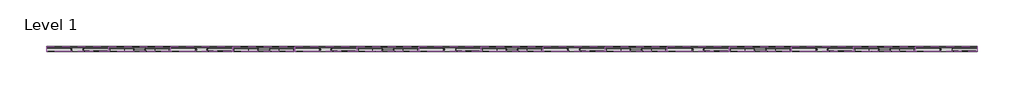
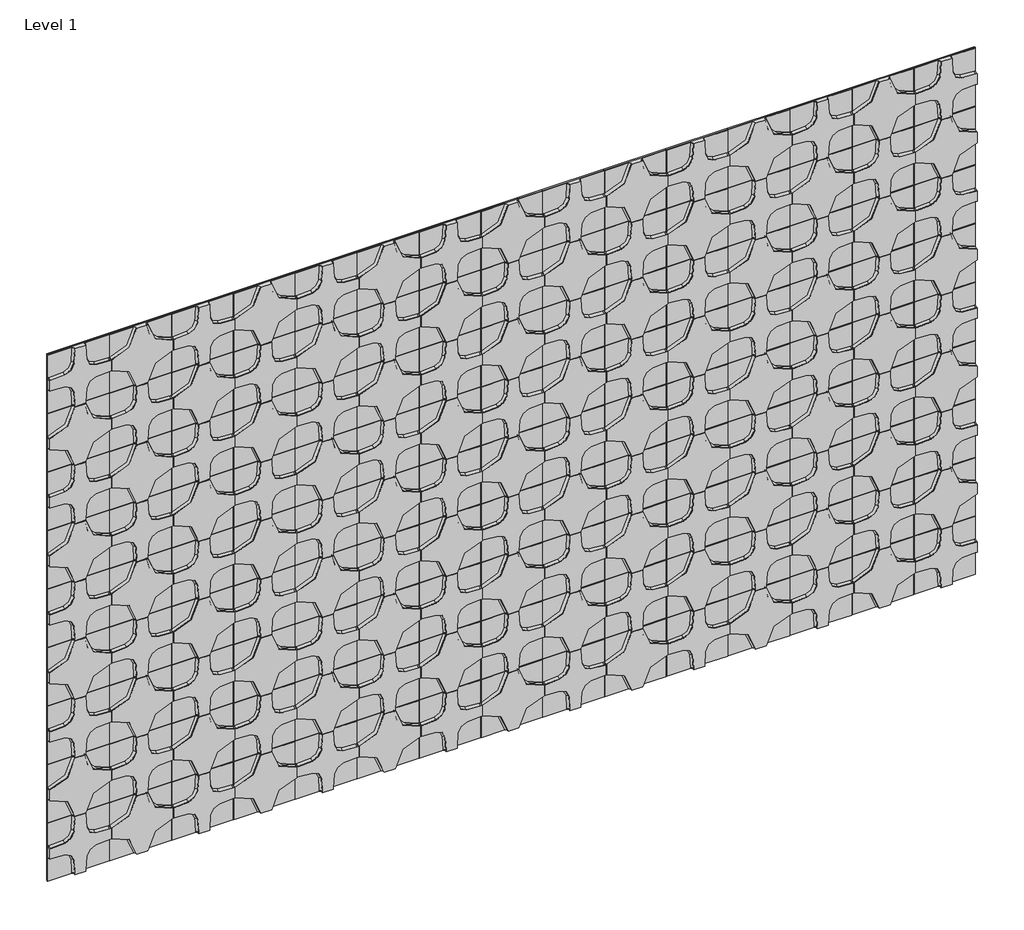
# One storey: 135 proxies.
"""IFC4 building model written with IfcOpenShell, lengths in millimetres."""

from ifc_helpers import new_model, si_unit, origin, place, context, project, spatial, transform, mapped, element, save
from components import specialty_equipment_d3eebbf5, specialty_equipment_d5421138

model = new_model("IFC4")

# Units and contexts
model_context = context("Model", 3, world=origin())
ifc_project = project(units=[si_unit("LENGTHUNIT", "METRE", prefix="MILLI")], contexts=[model_context])

# Site, building, storey
site = spatial("IfcSite", under=ifc_project)
building = spatial("IfcBuilding", under=site)
storey = spatial("IfcBuildingStorey", under=building, Name="Level 1", Elevation=0.0)

# Proxies
placement = place(None, origin())
specialty_equipment_shape = specialty_equipment_d3eebbf5(model_context)
element("IfcBuildingElementProxy", 1, Name="Spinneybeck_Quartile : Quartile 1", ObjectType="Spinneybeck_Quartile : Quartile 1", at=placement, inside=storey, context=model_context, shape_type="MappedRepresentation", body=[
    mapped(specialty_equipment_shape, transform((-8828.4606366, 2074.1714817, 152.4), x_axis=(1.0, 0.0, 0.0), y_axis=(0.0, 0.0, 1.0), z_axis=(0.0, -1.0, 0.0))),
])
element("IfcBuildingElementProxy", 2, Name="Spinneybeck_Quartile : Quartile 1", ObjectType="Spinneybeck_Quartile : Quartile 1", at=placement, inside=storey, context=model_context, shape_type="MappedRepresentation", body=[
    mapped(specialty_equipment_shape, transform((-8218.8606366, 2074.1714817, 152.4), x_axis=(1.0, 0.0, 0.0), y_axis=(0.0, 0.0, 1.0), z_axis=(0.0, -1.0, 0.0))),
])
element("IfcBuildingElementProxy", 3, Name="Spinneybeck_Quartile : Quartile 1", ObjectType="Spinneybeck_Quartile : Quartile 1", at=placement, inside=storey, context=model_context, shape_type="MappedRepresentation", body=[
    mapped(specialty_equipment_shape, transform((-7609.2606366, 2074.1714817, 152.4), x_axis=(1.0, 0.0, 0.0), y_axis=(0.0, 0.0, 1.0), z_axis=(0.0, -1.0, 0.0))),
])
element("IfcBuildingElementProxy", 4, Name="Spinneybeck_Quartile : Quartile 1", ObjectType="Spinneybeck_Quartile : Quartile 1", at=placement, inside=storey, context=model_context, shape_type="MappedRepresentation", body=[
    mapped(specialty_equipment_shape, transform((-6999.6606366, 2074.1714817, 152.4), x_axis=(1.0, 0.0, 0.0), y_axis=(0.0, 0.0, 1.0), z_axis=(0.0, -1.0, 0.0))),
])
element("IfcBuildingElementProxy", 5, Name="Spinneybeck_Quartile : Quartile 1", ObjectType="Spinneybeck_Quartile : Quartile 1", at=placement, inside=storey, context=model_context, shape_type="MappedRepresentation", body=[
    mapped(specialty_equipment_shape, transform((-6390.0606366, 2074.1714817, 152.4), x_axis=(1.0, 0.0, 0.0), y_axis=(0.0, 0.0, 1.0), z_axis=(0.0, -1.0, 0.0))),
])
element("IfcBuildingElementProxy", 6, Name="Spinneybeck_Quartile : Quartile 1", ObjectType="Spinneybeck_Quartile : Quartile 1", at=placement, inside=storey, context=model_context, shape_type="MappedRepresentation", body=[
    mapped(specialty_equipment_shape, transform((-5780.4606366, 2074.1714817, 152.4), x_axis=(1.0, 0.0, 0.0), y_axis=(0.0, 0.0, 1.0), z_axis=(0.0, -1.0, 0.0))),
])
element("IfcBuildingElementProxy", 7, Name="Spinneybeck_Quartile : Quartile 1", ObjectType="Spinneybeck_Quartile : Quartile 1", at=placement, inside=storey, context=model_context, shape_type="MappedRepresentation", body=[
    mapped(specialty_equipment_shape, transform((-5170.8606366, 2074.1714817, 152.4), x_axis=(1.0, 0.0, 0.0), y_axis=(0.0, 0.0, 1.0), z_axis=(0.0, -1.0, 0.0))),
])
element("IfcBuildingElementProxy", 8, Name="Spinneybeck_Quartile : Quartile 1", ObjectType="Spinneybeck_Quartile : Quartile 1", at=placement, inside=storey, context=model_context, shape_type="MappedRepresentation", body=[
    mapped(specialty_equipment_shape, transform((-9133.2606366, 2074.1714817, 457.2), x_axis=(1.0, 0.0, 0.0), y_axis=(0.0, 0.0, 1.0), z_axis=(0.0, -1.0, 0.0))),
])
element("IfcBuildingElementProxy", 9, Name="Spinneybeck_Quartile : Quartile 1", ObjectType="Spinneybeck_Quartile : Quartile 1", at=placement, inside=storey, context=model_context, shape_type="MappedRepresentation", body=[
    mapped(specialty_equipment_shape, transform((-8523.6606366, 2074.1714817, 457.2), x_axis=(1.0, 0.0, 0.0), y_axis=(0.0, 0.0, 1.0), z_axis=(0.0, -1.0, 0.0))),
])
element("IfcBuildingElementProxy", 10, Name="Spinneybeck_Quartile : Quartile 1", ObjectType="Spinneybeck_Quartile : Quartile 1", at=placement, inside=storey, context=model_context, shape_type="MappedRepresentation", body=[
    mapped(specialty_equipment_shape, transform((-7914.0606366, 2074.1714817, 457.2), x_axis=(1.0, 0.0, 0.0), y_axis=(0.0, 0.0, 1.0), z_axis=(0.0, -1.0, 0.0))),
])
element("IfcBuildingElementProxy", 11, Name="Spinneybeck_Quartile : Quartile 1", ObjectType="Spinneybeck_Quartile : Quartile 1", at=placement, inside=storey, context=model_context, shape_type="MappedRepresentation", body=[
    mapped(specialty_equipment_shape, transform((-7304.4606366, 2074.1714817, 457.2), x_axis=(1.0, 0.0, 0.0), y_axis=(0.0, 0.0, 1.0), z_axis=(0.0, -1.0, 0.0))),
])
element("IfcBuildingElementProxy", 12, Name="Spinneybeck_Quartile : Quartile 1", ObjectType="Spinneybeck_Quartile : Quartile 1", at=placement, inside=storey, context=model_context, shape_type="MappedRepresentation", body=[
    mapped(specialty_equipment_shape, transform((-6694.8606366, 2074.1714817, 457.2), x_axis=(1.0, 0.0, 0.0), y_axis=(0.0, 0.0, 1.0), z_axis=(0.0, -1.0, 0.0))),
])
element("IfcBuildingElementProxy", 13, Name="Spinneybeck_Quartile : Quartile 1", ObjectType="Spinneybeck_Quartile : Quartile 1", at=placement, inside=storey, context=model_context, shape_type="MappedRepresentation", body=[
    mapped(specialty_equipment_shape, transform((-6085.2606366, 2074.1714817, 457.2), x_axis=(1.0, 0.0, 0.0), y_axis=(0.0, 0.0, 1.0), z_axis=(0.0, -1.0, 0.0))),
])
element("IfcBuildingElementProxy", 14, Name="Spinneybeck_Quartile : Quartile 1", ObjectType="Spinneybeck_Quartile : Quartile 1", at=placement, inside=storey, context=model_context, shape_type="MappedRepresentation", body=[
    mapped(specialty_equipment_shape, transform((-5475.6606366, 2074.1714817, 457.2), x_axis=(1.0, 0.0, 0.0), y_axis=(0.0, 0.0, 1.0), z_axis=(0.0, -1.0, 0.0))),
])
element("IfcBuildingElementProxy", 15, Name="Spinneybeck_Quartile : Quartile 1", ObjectType="Spinneybeck_Quartile : Quartile 1", at=placement, inside=storey, context=model_context, shape_type="MappedRepresentation", body=[
    mapped(specialty_equipment_shape, transform((-4866.0606366, 2074.1714817, 457.2), x_axis=(1.0, 0.0, 0.0), y_axis=(0.0, 0.0, 1.0), z_axis=(0.0, -1.0, 0.0))),
])
element("IfcBuildingElementProxy", 16, Name="Spinneybeck_Quartile : Quartile 1", ObjectType="Spinneybeck_Quartile : Quartile 1", at=placement, inside=storey, context=model_context, shape_type="MappedRepresentation", body=[
    mapped(specialty_equipment_shape, transform((-8828.4606366, 2074.1714817, 762.0), x_axis=(1.0, 0.0, 0.0), y_axis=(0.0, 0.0, 1.0), z_axis=(0.0, -1.0, 0.0))),
])
element("IfcBuildingElementProxy", 17, Name="Spinneybeck_Quartile : Quartile 1", ObjectType="Spinneybeck_Quartile : Quartile 1", at=placement, inside=storey, context=model_context, shape_type="MappedRepresentation", body=[
    mapped(specialty_equipment_shape, transform((-8218.8606366, 2074.1714817, 762.0), x_axis=(1.0, 0.0, 0.0), y_axis=(0.0, 0.0, 1.0), z_axis=(0.0, -1.0, 0.0))),
])
element("IfcBuildingElementProxy", 18, Name="Spinneybeck_Quartile : Quartile 1", ObjectType="Spinneybeck_Quartile : Quartile 1", at=placement, inside=storey, context=model_context, shape_type="MappedRepresentation", body=[
    mapped(specialty_equipment_shape, transform((-7609.2606366, 2074.1714817, 762.0), x_axis=(1.0, 0.0, 0.0), y_axis=(0.0, 0.0, 1.0), z_axis=(0.0, -1.0, 0.0))),
])
element("IfcBuildingElementProxy", 19, Name="Spinneybeck_Quartile : Quartile 1", ObjectType="Spinneybeck_Quartile : Quartile 1", at=placement, inside=storey, context=model_context, shape_type="MappedRepresentation", body=[
    mapped(specialty_equipment_shape, transform((-6999.6606366, 2074.1714817, 762.0), x_axis=(1.0, 0.0, 0.0), y_axis=(0.0, 0.0, 1.0), z_axis=(0.0, -1.0, 0.0))),
])
element("IfcBuildingElementProxy", 20, Name="Spinneybeck_Quartile : Quartile 1", ObjectType="Spinneybeck_Quartile : Quartile 1", at=placement, inside=storey, context=model_context, shape_type="MappedRepresentation", body=[
    mapped(specialty_equipment_shape, transform((-6390.0606366, 2074.1714817, 762.0), x_axis=(1.0, 0.0, 0.0), y_axis=(0.0, 0.0, 1.0), z_axis=(0.0, -1.0, 0.0))),
])
element("IfcBuildingElementProxy", 21, Name="Spinneybeck_Quartile : Quartile 1", ObjectType="Spinneybeck_Quartile : Quartile 1", at=placement, inside=storey, context=model_context, shape_type="MappedRepresentation", body=[
    mapped(specialty_equipment_shape, transform((-5780.4606366, 2074.1714817, 762.0), x_axis=(1.0, 0.0, 0.0), y_axis=(0.0, 0.0, 1.0), z_axis=(0.0, -1.0, 0.0))),
])
element("IfcBuildingElementProxy", 22, Name="Spinneybeck_Quartile : Quartile 1", ObjectType="Spinneybeck_Quartile : Quartile 1", at=placement, inside=storey, context=model_context, shape_type="MappedRepresentation", body=[
    mapped(specialty_equipment_shape, transform((-5170.8606366, 2074.1714817, 762.0), x_axis=(1.0, 0.0, 0.0), y_axis=(0.0, 0.0, 1.0), z_axis=(0.0, -1.0, 0.0))),
])
element("IfcBuildingElementProxy", 23, Name="Spinneybeck_Quartile : Quartile 1", ObjectType="Spinneybeck_Quartile : Quartile 1", at=placement, inside=storey, context=model_context, shape_type="MappedRepresentation", body=[
    mapped(specialty_equipment_shape, transform((-9133.2606366, 2074.1714817, 1066.8), x_axis=(1.0, 0.0, 0.0), y_axis=(0.0, 0.0, 1.0), z_axis=(0.0, -1.0, 0.0))),
])
element("IfcBuildingElementProxy", 24, Name="Spinneybeck_Quartile : Quartile 1", ObjectType="Spinneybeck_Quartile : Quartile 1", at=placement, inside=storey, context=model_context, shape_type="MappedRepresentation", body=[
    mapped(specialty_equipment_shape, transform((-8523.6606366, 2074.1714817, 1066.8), x_axis=(1.0, 0.0, 0.0), y_axis=(0.0, 0.0, 1.0), z_axis=(0.0, -1.0, 0.0))),
])
element("IfcBuildingElementProxy", 25, Name="Spinneybeck_Quartile : Quartile 1", ObjectType="Spinneybeck_Quartile : Quartile 1", at=placement, inside=storey, context=model_context, shape_type="MappedRepresentation", body=[
    mapped(specialty_equipment_shape, transform((-7914.0606366, 2074.1714817, 1066.8), x_axis=(1.0, 0.0, 0.0), y_axis=(0.0, 0.0, 1.0), z_axis=(0.0, -1.0, 0.0))),
])
element("IfcBuildingElementProxy", 26, Name="Spinneybeck_Quartile : Quartile 1", ObjectType="Spinneybeck_Quartile : Quartile 1", at=placement, inside=storey, context=model_context, shape_type="MappedRepresentation", body=[
    mapped(specialty_equipment_shape, transform((-7304.4606366, 2074.1714817, 1066.8), x_axis=(1.0, 0.0, 0.0), y_axis=(0.0, 0.0, 1.0), z_axis=(0.0, -1.0, 0.0))),
])
element("IfcBuildingElementProxy", 27, Name="Spinneybeck_Quartile : Quartile 1", ObjectType="Spinneybeck_Quartile : Quartile 1", at=placement, inside=storey, context=model_context, shape_type="MappedRepresentation", body=[
    mapped(specialty_equipment_shape, transform((-6694.8606366, 2074.1714817, 1066.8), x_axis=(1.0, 0.0, 0.0), y_axis=(0.0, 0.0, 1.0), z_axis=(0.0, -1.0, 0.0))),
])
element("IfcBuildingElementProxy", 28, Name="Spinneybeck_Quartile : Quartile 1", ObjectType="Spinneybeck_Quartile : Quartile 1", at=placement, inside=storey, context=model_context, shape_type="MappedRepresentation", body=[
    mapped(specialty_equipment_shape, transform((-6085.2606366, 2074.1714817, 1066.8), x_axis=(1.0, 0.0, 0.0), y_axis=(0.0, 0.0, 1.0), z_axis=(0.0, -1.0, 0.0))),
])
element("IfcBuildingElementProxy", 29, Name="Spinneybeck_Quartile : Quartile 1", ObjectType="Spinneybeck_Quartile : Quartile 1", at=placement, inside=storey, context=model_context, shape_type="MappedRepresentation", body=[
    mapped(specialty_equipment_shape, transform((-5475.6606366, 2074.1714817, 1066.8), x_axis=(1.0, 0.0, 0.0), y_axis=(0.0, 0.0, 1.0), z_axis=(0.0, -1.0, 0.0))),
])
element("IfcBuildingElementProxy", 30, Name="Spinneybeck_Quartile : Quartile 1", ObjectType="Spinneybeck_Quartile : Quartile 1", at=placement, inside=storey, context=model_context, shape_type="MappedRepresentation", body=[
    mapped(specialty_equipment_shape, transform((-4866.0606366, 2074.1714817, 1066.8), x_axis=(1.0, 0.0, 0.0), y_axis=(0.0, 0.0, 1.0), z_axis=(0.0, -1.0, 0.0))),
])
element("IfcBuildingElementProxy", 31, Name="Spinneybeck_Quartile : Quartile 1", ObjectType="Spinneybeck_Quartile : Quartile 1", at=placement, inside=storey, context=model_context, shape_type="MappedRepresentation", body=[
    mapped(specialty_equipment_shape, transform((-8828.4606366, 2074.1714817, 1371.6), x_axis=(1.0, 0.0, 0.0), y_axis=(0.0, 0.0, 1.0), z_axis=(0.0, -1.0, 0.0))),
])
element("IfcBuildingElementProxy", 32, Name="Spinneybeck_Quartile : Quartile 1", ObjectType="Spinneybeck_Quartile : Quartile 1", at=placement, inside=storey, context=model_context, shape_type="MappedRepresentation", body=[
    mapped(specialty_equipment_shape, transform((-8218.8606366, 2074.1714817, 1371.6), x_axis=(1.0, 0.0, 0.0), y_axis=(0.0, 0.0, 1.0), z_axis=(0.0, -1.0, 0.0))),
])
element("IfcBuildingElementProxy", 33, Name="Spinneybeck_Quartile : Quartile 1", ObjectType="Spinneybeck_Quartile : Quartile 1", at=placement, inside=storey, context=model_context, shape_type="MappedRepresentation", body=[
    mapped(specialty_equipment_shape, transform((-7609.2606366, 2074.1714817, 1371.6), x_axis=(1.0, 0.0, 0.0), y_axis=(0.0, 0.0, 1.0), z_axis=(0.0, -1.0, 0.0))),
])
element("IfcBuildingElementProxy", 34, Name="Spinneybeck_Quartile : Quartile 1", ObjectType="Spinneybeck_Quartile : Quartile 1", at=placement, inside=storey, context=model_context, shape_type="MappedRepresentation", body=[
    mapped(specialty_equipment_shape, transform((-6999.6606366, 2074.1714817, 1371.6), x_axis=(1.0, 0.0, 0.0), y_axis=(0.0, 0.0, 1.0), z_axis=(0.0, -1.0, 0.0))),
])
element("IfcBuildingElementProxy", 35, Name="Spinneybeck_Quartile : Quartile 1", ObjectType="Spinneybeck_Quartile : Quartile 1", at=placement, inside=storey, context=model_context, shape_type="MappedRepresentation", body=[
    mapped(specialty_equipment_shape, transform((-6390.0606366, 2074.1714817, 1371.6), x_axis=(1.0, 0.0, 0.0), y_axis=(0.0, 0.0, 1.0), z_axis=(0.0, -1.0, 0.0))),
])
element("IfcBuildingElementProxy", 36, Name="Spinneybeck_Quartile : Quartile 1", ObjectType="Spinneybeck_Quartile : Quartile 1", at=placement, inside=storey, context=model_context, shape_type="MappedRepresentation", body=[
    mapped(specialty_equipment_shape, transform((-5780.4606366, 2074.1714817, 1371.6), x_axis=(1.0, 0.0, 0.0), y_axis=(0.0, 0.0, 1.0), z_axis=(0.0, -1.0, 0.0))),
])
element("IfcBuildingElementProxy", 37, Name="Spinneybeck_Quartile : Quartile 1", ObjectType="Spinneybeck_Quartile : Quartile 1", at=placement, inside=storey, context=model_context, shape_type="MappedRepresentation", body=[
    mapped(specialty_equipment_shape, transform((-5170.8606366, 2074.1714817, 1371.6), x_axis=(1.0, 0.0, 0.0), y_axis=(0.0, 0.0, 1.0), z_axis=(0.0, -1.0, 0.0))),
])
element("IfcBuildingElementProxy", 38, Name="Spinneybeck_Quartile : Quartile 1", ObjectType="Spinneybeck_Quartile : Quartile 1", at=placement, inside=storey, context=model_context, shape_type="MappedRepresentation", body=[
    mapped(specialty_equipment_shape, transform((-9133.2606366, 2074.1714817, 1676.4), x_axis=(1.0, 0.0, 0.0), y_axis=(0.0, 0.0, 1.0), z_axis=(0.0, -1.0, 0.0))),
])
element("IfcBuildingElementProxy", 39, Name="Spinneybeck_Quartile : Quartile 1", ObjectType="Spinneybeck_Quartile : Quartile 1", at=placement, inside=storey, context=model_context, shape_type="MappedRepresentation", body=[
    mapped(specialty_equipment_shape, transform((-8523.6606366, 2074.1714817, 1676.4), x_axis=(1.0, 0.0, 0.0), y_axis=(0.0, 0.0, 1.0), z_axis=(0.0, -1.0, 0.0))),
])
element("IfcBuildingElementProxy", 40, Name="Spinneybeck_Quartile : Quartile 1", ObjectType="Spinneybeck_Quartile : Quartile 1", at=placement, inside=storey, context=model_context, shape_type="MappedRepresentation", body=[
    mapped(specialty_equipment_shape, transform((-7914.0606366, 2074.1714817, 1676.4), x_axis=(1.0, 0.0, 0.0), y_axis=(0.0, 0.0, 1.0), z_axis=(0.0, -1.0, 0.0))),
])
element("IfcBuildingElementProxy", 41, Name="Spinneybeck_Quartile : Quartile 1", ObjectType="Spinneybeck_Quartile : Quartile 1", at=placement, inside=storey, context=model_context, shape_type="MappedRepresentation", body=[
    mapped(specialty_equipment_shape, transform((-7304.4606366, 2074.1714817, 1676.4), x_axis=(1.0, 0.0, 0.0), y_axis=(0.0, 0.0, 1.0), z_axis=(0.0, -1.0, 0.0))),
])
element("IfcBuildingElementProxy", 42, Name="Spinneybeck_Quartile : Quartile 1", ObjectType="Spinneybeck_Quartile : Quartile 1", at=placement, inside=storey, context=model_context, shape_type="MappedRepresentation", body=[
    mapped(specialty_equipment_shape, transform((-6694.8606366, 2074.1714817, 1676.4), x_axis=(1.0, 0.0, 0.0), y_axis=(0.0, 0.0, 1.0), z_axis=(0.0, -1.0, 0.0))),
])
element("IfcBuildingElementProxy", 43, Name="Spinneybeck_Quartile : Quartile 1", ObjectType="Spinneybeck_Quartile : Quartile 1", at=placement, inside=storey, context=model_context, shape_type="MappedRepresentation", body=[
    mapped(specialty_equipment_shape, transform((-6085.2606366, 2074.1714817, 1676.4), x_axis=(1.0, 0.0, 0.0), y_axis=(0.0, 0.0, 1.0), z_axis=(0.0, -1.0, 0.0))),
])
element("IfcBuildingElementProxy", 44, Name="Spinneybeck_Quartile : Quartile 1", ObjectType="Spinneybeck_Quartile : Quartile 1", at=placement, inside=storey, context=model_context, shape_type="MappedRepresentation", body=[
    mapped(specialty_equipment_shape, transform((-5475.6606366, 2074.1714817, 1676.4), x_axis=(1.0, 0.0, 0.0), y_axis=(0.0, 0.0, 1.0), z_axis=(0.0, -1.0, 0.0))),
])
element("IfcBuildingElementProxy", 45, Name="Spinneybeck_Quartile : Quartile 1", ObjectType="Spinneybeck_Quartile : Quartile 1", at=placement, inside=storey, context=model_context, shape_type="MappedRepresentation", body=[
    mapped(specialty_equipment_shape, transform((-4866.0606366, 2074.1714817, 1676.4), x_axis=(1.0, 0.0, 0.0), y_axis=(0.0, 0.0, 1.0), z_axis=(0.0, -1.0, 0.0))),
])
element("IfcBuildingElementProxy", 46, Name="Spinneybeck_Quartile : Quartile 1", ObjectType="Spinneybeck_Quartile : Quartile 1", at=placement, inside=storey, context=model_context, shape_type="MappedRepresentation", body=[
    mapped(specialty_equipment_shape, transform((-8828.4606366, 2074.1714817, 1981.2), x_axis=(1.0, 0.0, 0.0), y_axis=(0.0, 0.0, 1.0), z_axis=(0.0, -1.0, 0.0))),
])
element("IfcBuildingElementProxy", 47, Name="Spinneybeck_Quartile : Quartile 1", ObjectType="Spinneybeck_Quartile : Quartile 1", at=placement, inside=storey, context=model_context, shape_type="MappedRepresentation", body=[
    mapped(specialty_equipment_shape, transform((-8218.8606366, 2074.1714817, 1981.2), x_axis=(1.0, 0.0, 0.0), y_axis=(0.0, 0.0, 1.0), z_axis=(0.0, -1.0, 0.0))),
])
element("IfcBuildingElementProxy", 48, Name="Spinneybeck_Quartile : Quartile 1", ObjectType="Spinneybeck_Quartile : Quartile 1", at=placement, inside=storey, context=model_context, shape_type="MappedRepresentation", body=[
    mapped(specialty_equipment_shape, transform((-7609.2606366, 2074.1714817, 1981.2), x_axis=(1.0, 0.0, 0.0), y_axis=(0.0, 0.0, 1.0), z_axis=(0.0, -1.0, 0.0))),
])
element("IfcBuildingElementProxy", 49, Name="Spinneybeck_Quartile : Quartile 1", ObjectType="Spinneybeck_Quartile : Quartile 1", at=placement, inside=storey, context=model_context, shape_type="MappedRepresentation", body=[
    mapped(specialty_equipment_shape, transform((-6999.6606366, 2074.1714817, 1981.2), x_axis=(1.0, 0.0, 0.0), y_axis=(0.0, 0.0, 1.0), z_axis=(0.0, -1.0, 0.0))),
])
element("IfcBuildingElementProxy", 50, Name="Spinneybeck_Quartile : Quartile 1", ObjectType="Spinneybeck_Quartile : Quartile 1", at=placement, inside=storey, context=model_context, shape_type="MappedRepresentation", body=[
    mapped(specialty_equipment_shape, transform((-6390.0606366, 2074.1714817, 1981.2), x_axis=(1.0, 0.0, 0.0), y_axis=(0.0, 0.0, 1.0), z_axis=(0.0, -1.0, 0.0))),
])
element("IfcBuildingElementProxy", 51, Name="Spinneybeck_Quartile : Quartile 1", ObjectType="Spinneybeck_Quartile : Quartile 1", at=placement, inside=storey, context=model_context, shape_type="MappedRepresentation", body=[
    mapped(specialty_equipment_shape, transform((-5780.4606366, 2074.1714817, 1981.2), x_axis=(1.0, 0.0, 0.0), y_axis=(0.0, 0.0, 1.0), z_axis=(0.0, -1.0, 0.0))),
])
element("IfcBuildingElementProxy", 52, Name="Spinneybeck_Quartile : Quartile 1", ObjectType="Spinneybeck_Quartile : Quartile 1", at=placement, inside=storey, context=model_context, shape_type="MappedRepresentation", body=[
    mapped(specialty_equipment_shape, transform((-5170.8606366, 2074.1714817, 1981.2), x_axis=(1.0, 0.0, 0.0), y_axis=(0.0, 0.0, 1.0), z_axis=(0.0, -1.0, 0.0))),
])
element("IfcBuildingElementProxy", 53, Name="Spinneybeck_Quartile : Quartile 1", ObjectType="Spinneybeck_Quartile : Quartile 1", at=placement, inside=storey, context=model_context, shape_type="MappedRepresentation", body=[
    mapped(specialty_equipment_shape, transform((-9133.2606366, 2074.1714817, 2286.0), x_axis=(1.0, 0.0, 0.0), y_axis=(0.0, 0.0, 1.0), z_axis=(0.0, -1.0, 0.0))),
])
element("IfcBuildingElementProxy", 54, Name="Spinneybeck_Quartile : Quartile 1", ObjectType="Spinneybeck_Quartile : Quartile 1", at=placement, inside=storey, context=model_context, shape_type="MappedRepresentation", body=[
    mapped(specialty_equipment_shape, transform((-8523.6606366, 2074.1714817, 2286.0), x_axis=(1.0, 0.0, 0.0), y_axis=(0.0, 0.0, 1.0), z_axis=(0.0, -1.0, 0.0))),
])
element("IfcBuildingElementProxy", 55, Name="Spinneybeck_Quartile : Quartile 1", ObjectType="Spinneybeck_Quartile : Quartile 1", at=placement, inside=storey, context=model_context, shape_type="MappedRepresentation", body=[
    mapped(specialty_equipment_shape, transform((-7914.0606366, 2074.1714817, 2286.0), x_axis=(1.0, 0.0, 0.0), y_axis=(0.0, 0.0, 1.0), z_axis=(0.0, -1.0, 0.0))),
])
element("IfcBuildingElementProxy", 56, Name="Spinneybeck_Quartile : Quartile 1", ObjectType="Spinneybeck_Quartile : Quartile 1", at=placement, inside=storey, context=model_context, shape_type="MappedRepresentation", body=[
    mapped(specialty_equipment_shape, transform((-7304.4606366, 2074.1714817, 2286.0), x_axis=(1.0, 0.0, 0.0), y_axis=(0.0, 0.0, 1.0), z_axis=(0.0, -1.0, 0.0))),
])
element("IfcBuildingElementProxy", 57, Name="Spinneybeck_Quartile : Quartile 1", ObjectType="Spinneybeck_Quartile : Quartile 1", at=placement, inside=storey, context=model_context, shape_type="MappedRepresentation", body=[
    mapped(specialty_equipment_shape, transform((-6694.8606366, 2074.1714817, 2286.0), x_axis=(1.0, 0.0, 0.0), y_axis=(0.0, 0.0, 1.0), z_axis=(0.0, -1.0, 0.0))),
])
element("IfcBuildingElementProxy", 58, Name="Spinneybeck_Quartile : Quartile 1", ObjectType="Spinneybeck_Quartile : Quartile 1", at=placement, inside=storey, context=model_context, shape_type="MappedRepresentation", body=[
    mapped(specialty_equipment_shape, transform((-6085.2606366, 2074.1714817, 2286.0), x_axis=(1.0, 0.0, 0.0), y_axis=(0.0, 0.0, 1.0), z_axis=(0.0, -1.0, 0.0))),
])
element("IfcBuildingElementProxy", 59, Name="Spinneybeck_Quartile : Quartile 1", ObjectType="Spinneybeck_Quartile : Quartile 1", at=placement, inside=storey, context=model_context, shape_type="MappedRepresentation", body=[
    mapped(specialty_equipment_shape, transform((-5475.6606366, 2074.1714817, 2286.0), x_axis=(1.0, 0.0, 0.0), y_axis=(0.0, 0.0, 1.0), z_axis=(0.0, -1.0, 0.0))),
])
element("IfcBuildingElementProxy", 60, Name="Spinneybeck_Quartile : Quartile 1", ObjectType="Spinneybeck_Quartile : Quartile 1", at=placement, inside=storey, context=model_context, shape_type="MappedRepresentation", body=[
    mapped(specialty_equipment_shape, transform((-4866.0606366, 2074.1714817, 2286.0), x_axis=(1.0, 0.0, 0.0), y_axis=(0.0, 0.0, 1.0), z_axis=(0.0, -1.0, 0.0))),
])
element("IfcBuildingElementProxy", 61, Name="Spinneybeck_Quartile : Quartile 1", ObjectType="Spinneybeck_Quartile : Quartile 1", at=placement, inside=storey, context=model_context, shape_type="MappedRepresentation", body=[
    mapped(specialty_equipment_shape, transform((-8828.4606366, 2074.1714817, 2590.8), x_axis=(1.0, 0.0, 0.0), y_axis=(0.0, 0.0, 1.0), z_axis=(0.0, -1.0, 0.0))),
])
element("IfcBuildingElementProxy", 62, Name="Spinneybeck_Quartile : Quartile 1", ObjectType="Spinneybeck_Quartile : Quartile 1", at=placement, inside=storey, context=model_context, shape_type="MappedRepresentation", body=[
    mapped(specialty_equipment_shape, transform((-8218.8606366, 2074.1714817, 2590.8), x_axis=(1.0, 0.0, 0.0), y_axis=(0.0, 0.0, 1.0), z_axis=(0.0, -1.0, 0.0))),
])
element("IfcBuildingElementProxy", 63, Name="Spinneybeck_Quartile : Quartile 1", ObjectType="Spinneybeck_Quartile : Quartile 1", at=placement, inside=storey, context=model_context, shape_type="MappedRepresentation", body=[
    mapped(specialty_equipment_shape, transform((-7609.2606366, 2074.1714817, 2590.8), x_axis=(1.0, 0.0, 0.0), y_axis=(0.0, 0.0, 1.0), z_axis=(0.0, -1.0, 0.0))),
])
element("IfcBuildingElementProxy", 64, Name="Spinneybeck_Quartile : Quartile 1", ObjectType="Spinneybeck_Quartile : Quartile 1", at=placement, inside=storey, context=model_context, shape_type="MappedRepresentation", body=[
    mapped(specialty_equipment_shape, transform((-6999.6606366, 2074.1714817, 2590.8), x_axis=(1.0, 0.0, 0.0), y_axis=(0.0, 0.0, 1.0), z_axis=(0.0, -1.0, 0.0))),
])
element("IfcBuildingElementProxy", 65, Name="Spinneybeck_Quartile : Quartile 1", ObjectType="Spinneybeck_Quartile : Quartile 1", at=placement, inside=storey, context=model_context, shape_type="MappedRepresentation", body=[
    mapped(specialty_equipment_shape, transform((-6390.0606366, 2074.1714817, 2590.8), x_axis=(1.0, 0.0, 0.0), y_axis=(0.0, 0.0, 1.0), z_axis=(0.0, -1.0, 0.0))),
])
element("IfcBuildingElementProxy", 66, Name="Spinneybeck_Quartile : Quartile 1", ObjectType="Spinneybeck_Quartile : Quartile 1", at=placement, inside=storey, context=model_context, shape_type="MappedRepresentation", body=[
    mapped(specialty_equipment_shape, transform((-5780.4606366, 2074.1714817, 2590.8), x_axis=(1.0, 0.0, 0.0), y_axis=(0.0, 0.0, 1.0), z_axis=(0.0, -1.0, 0.0))),
])
element("IfcBuildingElementProxy", 67, Name="Spinneybeck_Quartile : Quartile 1", ObjectType="Spinneybeck_Quartile : Quartile 1", at=placement, inside=storey, context=model_context, shape_type="MappedRepresentation", body=[
    mapped(specialty_equipment_shape, transform((-5170.8606366, 2074.1714817, 2590.8), x_axis=(1.0, 0.0, 0.0), y_axis=(0.0, 0.0, 1.0), z_axis=(0.0, -1.0, 0.0))),
])
specialty_equipment_2_shape = specialty_equipment_d5421138(model_context)
element("IfcBuildingElementProxy", 68, Name="Spinneybeck_Quartile : Quartile 2", ObjectType="Spinneybeck_Quartile : Quartile 2", at=placement, inside=storey, context=model_context, shape_type="MappedRepresentation", body=[
    mapped(specialty_equipment_2_shape, transform((-9133.2606366, 2074.1714817, 152.4), x_axis=(1.0, 0.0, 0.0), y_axis=(0.0, 0.0, 1.0), z_axis=(0.0, -1.0, 0.0))),
])
element("IfcBuildingElementProxy", 69, Name="Spinneybeck_Quartile : Quartile 2", ObjectType="Spinneybeck_Quartile : Quartile 2", at=placement, inside=storey, context=model_context, shape_type="MappedRepresentation", body=[
    mapped(specialty_equipment_2_shape, transform((-8523.6606366, 2074.1714817, 152.4), x_axis=(1.0, 0.0, 0.0), y_axis=(0.0, 0.0, 1.0), z_axis=(0.0, -1.0, 0.0))),
])
element("IfcBuildingElementProxy", 70, Name="Spinneybeck_Quartile : Quartile 2", ObjectType="Spinneybeck_Quartile : Quartile 2", at=placement, inside=storey, context=model_context, shape_type="MappedRepresentation", body=[
    mapped(specialty_equipment_2_shape, transform((-7914.0606366, 2074.1714817, 152.4), x_axis=(1.0, 0.0, 0.0), y_axis=(0.0, 0.0, 1.0), z_axis=(0.0, -1.0, 0.0))),
])
element("IfcBuildingElementProxy", 71, Name="Spinneybeck_Quartile : Quartile 2", ObjectType="Spinneybeck_Quartile : Quartile 2", at=placement, inside=storey, context=model_context, shape_type="MappedRepresentation", body=[
    mapped(specialty_equipment_2_shape, transform((-7304.4606366, 2074.1714817, 152.4), x_axis=(1.0, 0.0, 0.0), y_axis=(0.0, 0.0, 1.0), z_axis=(0.0, -1.0, 0.0))),
])
element("IfcBuildingElementProxy", 72, Name="Spinneybeck_Quartile : Quartile 2", ObjectType="Spinneybeck_Quartile : Quartile 2", at=placement, inside=storey, context=model_context, shape_type="MappedRepresentation", body=[
    mapped(specialty_equipment_2_shape, transform((-6694.8606366, 2074.1714817, 152.4), x_axis=(1.0, 0.0, 0.0), y_axis=(0.0, 0.0, 1.0), z_axis=(0.0, -1.0, 0.0))),
])
element("IfcBuildingElementProxy", 73, Name="Spinneybeck_Quartile : Quartile 2", ObjectType="Spinneybeck_Quartile : Quartile 2", at=placement, inside=storey, context=model_context, shape_type="MappedRepresentation", body=[
    mapped(specialty_equipment_2_shape, transform((-6085.2606366, 2074.1714817, 152.4), x_axis=(1.0, 0.0, 0.0), y_axis=(0.0, 0.0, 1.0), z_axis=(0.0, -1.0, 0.0))),
])
element("IfcBuildingElementProxy", 74, Name="Spinneybeck_Quartile : Quartile 2", ObjectType="Spinneybeck_Quartile : Quartile 2", at=placement, inside=storey, context=model_context, shape_type="MappedRepresentation", body=[
    mapped(specialty_equipment_2_shape, transform((-5475.6606366, 2074.1714817, 152.4), x_axis=(1.0, 0.0, 0.0), y_axis=(0.0, 0.0, 1.0), z_axis=(0.0, -1.0, 0.0))),
])
element("IfcBuildingElementProxy", 75, Name="Spinneybeck_Quartile : Quartile 2", ObjectType="Spinneybeck_Quartile : Quartile 2", at=placement, inside=storey, context=model_context, shape_type="MappedRepresentation", body=[
    mapped(specialty_equipment_2_shape, transform((-4866.0606366, 2074.1714817, 152.4), x_axis=(1.0, 0.0, 0.0), y_axis=(0.0, 0.0, 1.0), z_axis=(0.0, -1.0, 0.0))),
])
element("IfcBuildingElementProxy", 76, Name="Spinneybeck_Quartile : Quartile 2", ObjectType="Spinneybeck_Quartile : Quartile 2", at=placement, inside=storey, context=model_context, shape_type="MappedRepresentation", body=[
    mapped(specialty_equipment_2_shape, transform((-8828.4606366, 2074.1714817, 457.2), x_axis=(1.0, 0.0, 0.0), y_axis=(0.0, 0.0, 1.0), z_axis=(0.0, -1.0, 0.0))),
])
element("IfcBuildingElementProxy", 77, Name="Spinneybeck_Quartile : Quartile 2", ObjectType="Spinneybeck_Quartile : Quartile 2", at=placement, inside=storey, context=model_context, shape_type="MappedRepresentation", body=[
    mapped(specialty_equipment_2_shape, transform((-8218.8606366, 2074.1714817, 457.2), x_axis=(1.0, 0.0, 0.0), y_axis=(0.0, 0.0, 1.0), z_axis=(0.0, -1.0, 0.0))),
])
element("IfcBuildingElementProxy", 78, Name="Spinneybeck_Quartile : Quartile 2", ObjectType="Spinneybeck_Quartile : Quartile 2", at=placement, inside=storey, context=model_context, shape_type="MappedRepresentation", body=[
    mapped(specialty_equipment_2_shape, transform((-7609.2606366, 2074.1714817, 457.2), x_axis=(1.0, 0.0, 0.0), y_axis=(0.0, 0.0, 1.0), z_axis=(0.0, -1.0, 0.0))),
])
element("IfcBuildingElementProxy", 79, Name="Spinneybeck_Quartile : Quartile 2", ObjectType="Spinneybeck_Quartile : Quartile 2", at=placement, inside=storey, context=model_context, shape_type="MappedRepresentation", body=[
    mapped(specialty_equipment_2_shape, transform((-6999.6606366, 2074.1714817, 457.2), x_axis=(1.0, 0.0, 0.0), y_axis=(0.0, 0.0, 1.0), z_axis=(0.0, -1.0, 0.0))),
])
element("IfcBuildingElementProxy", 80, Name="Spinneybeck_Quartile : Quartile 2", ObjectType="Spinneybeck_Quartile : Quartile 2", at=placement, inside=storey, context=model_context, shape_type="MappedRepresentation", body=[
    mapped(specialty_equipment_2_shape, transform((-6390.0606366, 2074.1714817, 457.2), x_axis=(1.0, 0.0, 0.0), y_axis=(0.0, 0.0, 1.0), z_axis=(0.0, -1.0, 0.0))),
])
element("IfcBuildingElementProxy", 81, Name="Spinneybeck_Quartile : Quartile 2", ObjectType="Spinneybeck_Quartile : Quartile 2", at=placement, inside=storey, context=model_context, shape_type="MappedRepresentation", body=[
    mapped(specialty_equipment_2_shape, transform((-5780.4606366, 2074.1714817, 457.2), x_axis=(1.0, 0.0, 0.0), y_axis=(0.0, 0.0, 1.0), z_axis=(0.0, -1.0, 0.0))),
])
element("IfcBuildingElementProxy", 82, Name="Spinneybeck_Quartile : Quartile 2", ObjectType="Spinneybeck_Quartile : Quartile 2", at=placement, inside=storey, context=model_context, shape_type="MappedRepresentation", body=[
    mapped(specialty_equipment_2_shape, transform((-5170.8606366, 2074.1714817, 457.2), x_axis=(1.0, 0.0, 0.0), y_axis=(0.0, 0.0, 1.0), z_axis=(0.0, -1.0, 0.0))),
])
element("IfcBuildingElementProxy", 83, Name="Spinneybeck_Quartile : Quartile 2", ObjectType="Spinneybeck_Quartile : Quartile 2", at=placement, inside=storey, context=model_context, shape_type="MappedRepresentation", body=[
    mapped(specialty_equipment_2_shape, transform((-9133.2606366, 2074.1714817, 762.0), x_axis=(1.0, 0.0, 0.0), y_axis=(0.0, 0.0, 1.0), z_axis=(0.0, -1.0, 0.0))),
])
element("IfcBuildingElementProxy", 84, Name="Spinneybeck_Quartile : Quartile 2", ObjectType="Spinneybeck_Quartile : Quartile 2", at=placement, inside=storey, context=model_context, shape_type="MappedRepresentation", body=[
    mapped(specialty_equipment_2_shape, transform((-8523.6606366, 2074.1714817, 762.0), x_axis=(1.0, 0.0, 0.0), y_axis=(0.0, 0.0, 1.0), z_axis=(0.0, -1.0, 0.0))),
])
element("IfcBuildingElementProxy", 85, Name="Spinneybeck_Quartile : Quartile 2", ObjectType="Spinneybeck_Quartile : Quartile 2", at=placement, inside=storey, context=model_context, shape_type="MappedRepresentation", body=[
    mapped(specialty_equipment_2_shape, transform((-7914.0606366, 2074.1714817, 762.0), x_axis=(1.0, 0.0, 0.0), y_axis=(0.0, 0.0, 1.0), z_axis=(0.0, -1.0, 0.0))),
])
element("IfcBuildingElementProxy", 86, Name="Spinneybeck_Quartile : Quartile 2", ObjectType="Spinneybeck_Quartile : Quartile 2", at=placement, inside=storey, context=model_context, shape_type="MappedRepresentation", body=[
    mapped(specialty_equipment_2_shape, transform((-7304.4606366, 2074.1714817, 762.0), x_axis=(1.0, 0.0, 0.0), y_axis=(0.0, 0.0, 1.0), z_axis=(0.0, -1.0, 0.0))),
])
element("IfcBuildingElementProxy", 87, Name="Spinneybeck_Quartile : Quartile 2", ObjectType="Spinneybeck_Quartile : Quartile 2", at=placement, inside=storey, context=model_context, shape_type="MappedRepresentation", body=[
    mapped(specialty_equipment_2_shape, transform((-6694.8606366, 2074.1714817, 762.0), x_axis=(1.0, 0.0, 0.0), y_axis=(0.0, 0.0, 1.0), z_axis=(0.0, -1.0, 0.0))),
])
element("IfcBuildingElementProxy", 88, Name="Spinneybeck_Quartile : Quartile 2", ObjectType="Spinneybeck_Quartile : Quartile 2", at=placement, inside=storey, context=model_context, shape_type="MappedRepresentation", body=[
    mapped(specialty_equipment_2_shape, transform((-6085.2606366, 2074.1714817, 762.0), x_axis=(1.0, 0.0, 0.0), y_axis=(0.0, 0.0, 1.0), z_axis=(0.0, -1.0, 0.0))),
])
element("IfcBuildingElementProxy", 89, Name="Spinneybeck_Quartile : Quartile 2", ObjectType="Spinneybeck_Quartile : Quartile 2", at=placement, inside=storey, context=model_context, shape_type="MappedRepresentation", body=[
    mapped(specialty_equipment_2_shape, transform((-5475.6606366, 2074.1714817, 762.0), x_axis=(1.0, 0.0, 0.0), y_axis=(0.0, 0.0, 1.0), z_axis=(0.0, -1.0, 0.0))),
])
element("IfcBuildingElementProxy", 90, Name="Spinneybeck_Quartile : Quartile 2", ObjectType="Spinneybeck_Quartile : Quartile 2", at=placement, inside=storey, context=model_context, shape_type="MappedRepresentation", body=[
    mapped(specialty_equipment_2_shape, transform((-4866.0606366, 2074.1714817, 762.0), x_axis=(1.0, 0.0, 0.0), y_axis=(0.0, 0.0, 1.0), z_axis=(0.0, -1.0, 0.0))),
])
element("IfcBuildingElementProxy", 91, Name="Spinneybeck_Quartile : Quartile 2", ObjectType="Spinneybeck_Quartile : Quartile 2", at=placement, inside=storey, context=model_context, shape_type="MappedRepresentation", body=[
    mapped(specialty_equipment_2_shape, transform((-8828.4606366, 2074.1714817, 1066.8), x_axis=(1.0, 0.0, 0.0), y_axis=(0.0, 0.0, 1.0), z_axis=(0.0, -1.0, 0.0))),
])
element("IfcBuildingElementProxy", 92, Name="Spinneybeck_Quartile : Quartile 2", ObjectType="Spinneybeck_Quartile : Quartile 2", at=placement, inside=storey, context=model_context, shape_type="MappedRepresentation", body=[
    mapped(specialty_equipment_2_shape, transform((-8218.8606366, 2074.1714817, 1066.8), x_axis=(1.0, 0.0, 0.0), y_axis=(0.0, 0.0, 1.0), z_axis=(0.0, -1.0, 0.0))),
])
element("IfcBuildingElementProxy", 93, Name="Spinneybeck_Quartile : Quartile 2", ObjectType="Spinneybeck_Quartile : Quartile 2", at=placement, inside=storey, context=model_context, shape_type="MappedRepresentation", body=[
    mapped(specialty_equipment_2_shape, transform((-7609.2606366, 2074.1714817, 1066.8), x_axis=(1.0, 0.0, 0.0), y_axis=(0.0, 0.0, 1.0), z_axis=(0.0, -1.0, 0.0))),
])
element("IfcBuildingElementProxy", 94, Name="Spinneybeck_Quartile : Quartile 2", ObjectType="Spinneybeck_Quartile : Quartile 2", at=placement, inside=storey, context=model_context, shape_type="MappedRepresentation", body=[
    mapped(specialty_equipment_2_shape, transform((-6999.6606366, 2074.1714817, 1066.8), x_axis=(1.0, 0.0, 0.0), y_axis=(0.0, 0.0, 1.0), z_axis=(0.0, -1.0, 0.0))),
])
element("IfcBuildingElementProxy", 95, Name="Spinneybeck_Quartile : Quartile 2", ObjectType="Spinneybeck_Quartile : Quartile 2", at=placement, inside=storey, context=model_context, shape_type="MappedRepresentation", body=[
    mapped(specialty_equipment_2_shape, transform((-6390.0606366, 2074.1714817, 1066.8), x_axis=(1.0, 0.0, 0.0), y_axis=(0.0, 0.0, 1.0), z_axis=(0.0, -1.0, 0.0))),
])
element("IfcBuildingElementProxy", 96, Name="Spinneybeck_Quartile : Quartile 2", ObjectType="Spinneybeck_Quartile : Quartile 2", at=placement, inside=storey, context=model_context, shape_type="MappedRepresentation", body=[
    mapped(specialty_equipment_2_shape, transform((-5780.4606366, 2074.1714817, 1066.8), x_axis=(1.0, 0.0, 0.0), y_axis=(0.0, 0.0, 1.0), z_axis=(0.0, -1.0, 0.0))),
])
element("IfcBuildingElementProxy", 97, Name="Spinneybeck_Quartile : Quartile 2", ObjectType="Spinneybeck_Quartile : Quartile 2", at=placement, inside=storey, context=model_context, shape_type="MappedRepresentation", body=[
    mapped(specialty_equipment_2_shape, transform((-5170.8606366, 2074.1714817, 1066.8), x_axis=(1.0, 0.0, 0.0), y_axis=(0.0, 0.0, 1.0), z_axis=(0.0, -1.0, 0.0))),
])
element("IfcBuildingElementProxy", 98, Name="Spinneybeck_Quartile : Quartile 2", ObjectType="Spinneybeck_Quartile : Quartile 2", at=placement, inside=storey, context=model_context, shape_type="MappedRepresentation", body=[
    mapped(specialty_equipment_2_shape, transform((-9133.2606366, 2074.1714817, 1371.6), x_axis=(1.0, 0.0, 0.0), y_axis=(0.0, 0.0, 1.0), z_axis=(0.0, -1.0, 0.0))),
])
element("IfcBuildingElementProxy", 99, Name="Spinneybeck_Quartile : Quartile 2", ObjectType="Spinneybeck_Quartile : Quartile 2", at=placement, inside=storey, context=model_context, shape_type="MappedRepresentation", body=[
    mapped(specialty_equipment_2_shape, transform((-8523.6606366, 2074.1714817, 1371.6), x_axis=(1.0, 0.0, 0.0), y_axis=(0.0, 0.0, 1.0), z_axis=(0.0, -1.0, 0.0))),
])
element("IfcBuildingElementProxy", 100, Name="Spinneybeck_Quartile : Quartile 2", ObjectType="Spinneybeck_Quartile : Quartile 2", at=placement, inside=storey, context=model_context, shape_type="MappedRepresentation", body=[
    mapped(specialty_equipment_2_shape, transform((-7914.0606366, 2074.1714817, 1371.6), x_axis=(1.0, 0.0, 0.0), y_axis=(0.0, 0.0, 1.0), z_axis=(0.0, -1.0, 0.0))),
])
element("IfcBuildingElementProxy", 101, Name="Spinneybeck_Quartile : Quartile 2", ObjectType="Spinneybeck_Quartile : Quartile 2", at=placement, inside=storey, context=model_context, shape_type="MappedRepresentation", body=[
    mapped(specialty_equipment_2_shape, transform((-7304.4606366, 2074.1714817, 1371.6), x_axis=(1.0, 0.0, 0.0), y_axis=(0.0, 0.0, 1.0), z_axis=(0.0, -1.0, 0.0))),
])
element("IfcBuildingElementProxy", 102, Name="Spinneybeck_Quartile : Quartile 2", ObjectType="Spinneybeck_Quartile : Quartile 2", at=placement, inside=storey, context=model_context, shape_type="MappedRepresentation", body=[
    mapped(specialty_equipment_2_shape, transform((-6694.8606366, 2074.1714817, 1371.6), x_axis=(1.0, 0.0, 0.0), y_axis=(0.0, 0.0, 1.0), z_axis=(0.0, -1.0, 0.0))),
])
element("IfcBuildingElementProxy", 103, Name="Spinneybeck_Quartile : Quartile 2", ObjectType="Spinneybeck_Quartile : Quartile 2", at=placement, inside=storey, context=model_context, shape_type="MappedRepresentation", body=[
    mapped(specialty_equipment_2_shape, transform((-6085.2606366, 2074.1714817, 1371.6), x_axis=(1.0, 0.0, 0.0), y_axis=(0.0, 0.0, 1.0), z_axis=(0.0, -1.0, 0.0))),
])
element("IfcBuildingElementProxy", 104, Name="Spinneybeck_Quartile : Quartile 2", ObjectType="Spinneybeck_Quartile : Quartile 2", at=placement, inside=storey, context=model_context, shape_type="MappedRepresentation", body=[
    mapped(specialty_equipment_2_shape, transform((-5475.6606366, 2074.1714817, 1371.6), x_axis=(1.0, 0.0, 0.0), y_axis=(0.0, 0.0, 1.0), z_axis=(0.0, -1.0, 0.0))),
])
element("IfcBuildingElementProxy", 105, Name="Spinneybeck_Quartile : Quartile 2", ObjectType="Spinneybeck_Quartile : Quartile 2", at=placement, inside=storey, context=model_context, shape_type="MappedRepresentation", body=[
    mapped(specialty_equipment_2_shape, transform((-4866.0606366, 2074.1714817, 1371.6), x_axis=(1.0, 0.0, 0.0), y_axis=(0.0, 0.0, 1.0), z_axis=(0.0, -1.0, 0.0))),
])
element("IfcBuildingElementProxy", 106, Name="Spinneybeck_Quartile : Quartile 2", ObjectType="Spinneybeck_Quartile : Quartile 2", at=placement, inside=storey, context=model_context, shape_type="MappedRepresentation", body=[
    mapped(specialty_equipment_2_shape, transform((-8828.4606366, 2074.1714817, 1676.4), x_axis=(1.0, 0.0, 0.0), y_axis=(0.0, 0.0, 1.0), z_axis=(0.0, -1.0, 0.0))),
])
element("IfcBuildingElementProxy", 107, Name="Spinneybeck_Quartile : Quartile 2", ObjectType="Spinneybeck_Quartile : Quartile 2", at=placement, inside=storey, context=model_context, shape_type="MappedRepresentation", body=[
    mapped(specialty_equipment_2_shape, transform((-8218.8606366, 2074.1714817, 1676.4), x_axis=(1.0, 0.0, 0.0), y_axis=(0.0, 0.0, 1.0), z_axis=(0.0, -1.0, 0.0))),
])
element("IfcBuildingElementProxy", 108, Name="Spinneybeck_Quartile : Quartile 2", ObjectType="Spinneybeck_Quartile : Quartile 2", at=placement, inside=storey, context=model_context, shape_type="MappedRepresentation", body=[
    mapped(specialty_equipment_2_shape, transform((-7609.2606366, 2074.1714817, 1676.4), x_axis=(1.0, 0.0, 0.0), y_axis=(0.0, 0.0, 1.0), z_axis=(0.0, -1.0, 0.0))),
])
element("IfcBuildingElementProxy", 109, Name="Spinneybeck_Quartile : Quartile 2", ObjectType="Spinneybeck_Quartile : Quartile 2", at=placement, inside=storey, context=model_context, shape_type="MappedRepresentation", body=[
    mapped(specialty_equipment_2_shape, transform((-6999.6606366, 2074.1714817, 1676.4), x_axis=(1.0, 0.0, 0.0), y_axis=(0.0, 0.0, 1.0), z_axis=(0.0, -1.0, 0.0))),
])
element("IfcBuildingElementProxy", 110, Name="Spinneybeck_Quartile : Quartile 2", ObjectType="Spinneybeck_Quartile : Quartile 2", at=placement, inside=storey, context=model_context, shape_type="MappedRepresentation", body=[
    mapped(specialty_equipment_2_shape, transform((-6390.0606366, 2074.1714817, 1676.4), x_axis=(1.0, 0.0, 0.0), y_axis=(0.0, 0.0, 1.0), z_axis=(0.0, -1.0, 0.0))),
])
element("IfcBuildingElementProxy", 111, Name="Spinneybeck_Quartile : Quartile 2", ObjectType="Spinneybeck_Quartile : Quartile 2", at=placement, inside=storey, context=model_context, shape_type="MappedRepresentation", body=[
    mapped(specialty_equipment_2_shape, transform((-5780.4606366, 2074.1714817, 1676.4), x_axis=(1.0, 0.0, 0.0), y_axis=(0.0, 0.0, 1.0), z_axis=(0.0, -1.0, 0.0))),
])
element("IfcBuildingElementProxy", 112, Name="Spinneybeck_Quartile : Quartile 2", ObjectType="Spinneybeck_Quartile : Quartile 2", at=placement, inside=storey, context=model_context, shape_type="MappedRepresentation", body=[
    mapped(specialty_equipment_2_shape, transform((-5170.8606366, 2074.1714817, 1676.4), x_axis=(1.0, 0.0, 0.0), y_axis=(0.0, 0.0, 1.0), z_axis=(0.0, -1.0, 0.0))),
])
element("IfcBuildingElementProxy", 113, Name="Spinneybeck_Quartile : Quartile 2", ObjectType="Spinneybeck_Quartile : Quartile 2", at=placement, inside=storey, context=model_context, shape_type="MappedRepresentation", body=[
    mapped(specialty_equipment_2_shape, transform((-9133.2606366, 2074.1714817, 1981.2), x_axis=(1.0, 0.0, 0.0), y_axis=(0.0, 0.0, 1.0), z_axis=(0.0, -1.0, 0.0))),
])
element("IfcBuildingElementProxy", 114, Name="Spinneybeck_Quartile : Quartile 2", ObjectType="Spinneybeck_Quartile : Quartile 2", at=placement, inside=storey, context=model_context, shape_type="MappedRepresentation", body=[
    mapped(specialty_equipment_2_shape, transform((-8523.6606366, 2074.1714817, 1981.2), x_axis=(1.0, 0.0, 0.0), y_axis=(0.0, 0.0, 1.0), z_axis=(0.0, -1.0, 0.0))),
])
element("IfcBuildingElementProxy", 115, Name="Spinneybeck_Quartile : Quartile 2", ObjectType="Spinneybeck_Quartile : Quartile 2", at=placement, inside=storey, context=model_context, shape_type="MappedRepresentation", body=[
    mapped(specialty_equipment_2_shape, transform((-7914.0606366, 2074.1714817, 1981.2), x_axis=(1.0, 0.0, 0.0), y_axis=(0.0, 0.0, 1.0), z_axis=(0.0, -1.0, 0.0))),
])
element("IfcBuildingElementProxy", 116, Name="Spinneybeck_Quartile : Quartile 2", ObjectType="Spinneybeck_Quartile : Quartile 2", at=placement, inside=storey, context=model_context, shape_type="MappedRepresentation", body=[
    mapped(specialty_equipment_2_shape, transform((-7304.4606366, 2074.1714817, 1981.2), x_axis=(1.0, 0.0, 0.0), y_axis=(0.0, 0.0, 1.0), z_axis=(0.0, -1.0, 0.0))),
])
element("IfcBuildingElementProxy", 117, Name="Spinneybeck_Quartile : Quartile 2", ObjectType="Spinneybeck_Quartile : Quartile 2", at=placement, inside=storey, context=model_context, shape_type="MappedRepresentation", body=[
    mapped(specialty_equipment_2_shape, transform((-6694.8606366, 2074.1714817, 1981.2), x_axis=(1.0, 0.0, 0.0), y_axis=(0.0, 0.0, 1.0), z_axis=(0.0, -1.0, 0.0))),
])
element("IfcBuildingElementProxy", 118, Name="Spinneybeck_Quartile : Quartile 2", ObjectType="Spinneybeck_Quartile : Quartile 2", at=placement, inside=storey, context=model_context, shape_type="MappedRepresentation", body=[
    mapped(specialty_equipment_2_shape, transform((-6085.2606366, 2074.1714817, 1981.2), x_axis=(1.0, 0.0, 0.0), y_axis=(0.0, 0.0, 1.0), z_axis=(0.0, -1.0, 0.0))),
])
element("IfcBuildingElementProxy", 119, Name="Spinneybeck_Quartile : Quartile 2", ObjectType="Spinneybeck_Quartile : Quartile 2", at=placement, inside=storey, context=model_context, shape_type="MappedRepresentation", body=[
    mapped(specialty_equipment_2_shape, transform((-5475.6606366, 2074.1714817, 1981.2), x_axis=(1.0, 0.0, 0.0), y_axis=(0.0, 0.0, 1.0), z_axis=(0.0, -1.0, 0.0))),
])
element("IfcBuildingElementProxy", 120, Name="Spinneybeck_Quartile : Quartile 2", ObjectType="Spinneybeck_Quartile : Quartile 2", at=placement, inside=storey, context=model_context, shape_type="MappedRepresentation", body=[
    mapped(specialty_equipment_2_shape, transform((-4866.0606366, 2074.1714817, 1981.2), x_axis=(1.0, 0.0, 0.0), y_axis=(0.0, 0.0, 1.0), z_axis=(0.0, -1.0, 0.0))),
])
element("IfcBuildingElementProxy", 121, Name="Spinneybeck_Quartile : Quartile 2", ObjectType="Spinneybeck_Quartile : Quartile 2", at=placement, inside=storey, context=model_context, shape_type="MappedRepresentation", body=[
    mapped(specialty_equipment_2_shape, transform((-8828.4606366, 2074.1714817, 2286.0), x_axis=(1.0, 0.0, 0.0), y_axis=(0.0, 0.0, 1.0), z_axis=(0.0, -1.0, 0.0))),
])
element("IfcBuildingElementProxy", 122, Name="Spinneybeck_Quartile : Quartile 2", ObjectType="Spinneybeck_Quartile : Quartile 2", at=placement, inside=storey, context=model_context, shape_type="MappedRepresentation", body=[
    mapped(specialty_equipment_2_shape, transform((-8218.8606366, 2074.1714817, 2286.0), x_axis=(1.0, 0.0, 0.0), y_axis=(0.0, 0.0, 1.0), z_axis=(0.0, -1.0, 0.0))),
])
element("IfcBuildingElementProxy", 123, Name="Spinneybeck_Quartile : Quartile 2", ObjectType="Spinneybeck_Quartile : Quartile 2", at=placement, inside=storey, context=model_context, shape_type="MappedRepresentation", body=[
    mapped(specialty_equipment_2_shape, transform((-7609.2606366, 2074.1714817, 2286.0), x_axis=(1.0, 0.0, 0.0), y_axis=(0.0, 0.0, 1.0), z_axis=(0.0, -1.0, 0.0))),
])
element("IfcBuildingElementProxy", 124, Name="Spinneybeck_Quartile : Quartile 2", ObjectType="Spinneybeck_Quartile : Quartile 2", at=placement, inside=storey, context=model_context, shape_type="MappedRepresentation", body=[
    mapped(specialty_equipment_2_shape, transform((-6999.6606366, 2074.1714817, 2286.0), x_axis=(1.0, 0.0, 0.0), y_axis=(0.0, 0.0, 1.0), z_axis=(0.0, -1.0, 0.0))),
])
element("IfcBuildingElementProxy", 125, Name="Spinneybeck_Quartile : Quartile 2", ObjectType="Spinneybeck_Quartile : Quartile 2", at=placement, inside=storey, context=model_context, shape_type="MappedRepresentation", body=[
    mapped(specialty_equipment_2_shape, transform((-6390.0606366, 2074.1714817, 2286.0), x_axis=(1.0, 0.0, 0.0), y_axis=(0.0, 0.0, 1.0), z_axis=(0.0, -1.0, 0.0))),
])
element("IfcBuildingElementProxy", 126, Name="Spinneybeck_Quartile : Quartile 2", ObjectType="Spinneybeck_Quartile : Quartile 2", at=placement, inside=storey, context=model_context, shape_type="MappedRepresentation", body=[
    mapped(specialty_equipment_2_shape, transform((-5780.4606366, 2074.1714817, 2286.0), x_axis=(1.0, 0.0, 0.0), y_axis=(0.0, 0.0, 1.0), z_axis=(0.0, -1.0, 0.0))),
])
element("IfcBuildingElementProxy", 127, Name="Spinneybeck_Quartile : Quartile 2", ObjectType="Spinneybeck_Quartile : Quartile 2", at=placement, inside=storey, context=model_context, shape_type="MappedRepresentation", body=[
    mapped(specialty_equipment_2_shape, transform((-5170.8606366, 2074.1714817, 2286.0), x_axis=(1.0, 0.0, 0.0), y_axis=(0.0, 0.0, 1.0), z_axis=(0.0, -1.0, 0.0))),
])
element("IfcBuildingElementProxy", 128, Name="Spinneybeck_Quartile : Quartile 2", ObjectType="Spinneybeck_Quartile : Quartile 2", at=placement, inside=storey, context=model_context, shape_type="MappedRepresentation", body=[
    mapped(specialty_equipment_2_shape, transform((-9133.2606366, 2074.1714817, 2590.8), x_axis=(1.0, 0.0, 0.0), y_axis=(0.0, 0.0, 1.0), z_axis=(0.0, -1.0, 0.0))),
])
element("IfcBuildingElementProxy", 129, Name="Spinneybeck_Quartile : Quartile 2", ObjectType="Spinneybeck_Quartile : Quartile 2", at=placement, inside=storey, context=model_context, shape_type="MappedRepresentation", body=[
    mapped(specialty_equipment_2_shape, transform((-8523.6606366, 2074.1714817, 2590.8), x_axis=(1.0, 0.0, 0.0), y_axis=(0.0, 0.0, 1.0), z_axis=(0.0, -1.0, 0.0))),
])
element("IfcBuildingElementProxy", 130, Name="Spinneybeck_Quartile : Quartile 2", ObjectType="Spinneybeck_Quartile : Quartile 2", at=placement, inside=storey, context=model_context, shape_type="MappedRepresentation", body=[
    mapped(specialty_equipment_2_shape, transform((-7914.0606366, 2074.1714817, 2590.8), x_axis=(1.0, 0.0, 0.0), y_axis=(0.0, 0.0, 1.0), z_axis=(0.0, -1.0, 0.0))),
])
element("IfcBuildingElementProxy", 131, Name="Spinneybeck_Quartile : Quartile 2", ObjectType="Spinneybeck_Quartile : Quartile 2", at=placement, inside=storey, context=model_context, shape_type="MappedRepresentation", body=[
    mapped(specialty_equipment_2_shape, transform((-7304.4606366, 2074.1714817, 2590.8), x_axis=(1.0, 0.0, 0.0), y_axis=(0.0, 0.0, 1.0), z_axis=(0.0, -1.0, 0.0))),
])
element("IfcBuildingElementProxy", 132, Name="Spinneybeck_Quartile : Quartile 2", ObjectType="Spinneybeck_Quartile : Quartile 2", at=placement, inside=storey, context=model_context, shape_type="MappedRepresentation", body=[
    mapped(specialty_equipment_2_shape, transform((-6694.8606366, 2074.1714817, 2590.8), x_axis=(1.0, 0.0, 0.0), y_axis=(0.0, 0.0, 1.0), z_axis=(0.0, -1.0, 0.0))),
])
element("IfcBuildingElementProxy", 133, Name="Spinneybeck_Quartile : Quartile 2", ObjectType="Spinneybeck_Quartile : Quartile 2", at=placement, inside=storey, context=model_context, shape_type="MappedRepresentation", body=[
    mapped(specialty_equipment_2_shape, transform((-6085.2606366, 2074.1714817, 2590.8), x_axis=(1.0, 0.0, 0.0), y_axis=(0.0, 0.0, 1.0), z_axis=(0.0, -1.0, 0.0))),
])
element("IfcBuildingElementProxy", 134, Name="Spinneybeck_Quartile : Quartile 2", ObjectType="Spinneybeck_Quartile : Quartile 2", at=placement, inside=storey, context=model_context, shape_type="MappedRepresentation", body=[
    mapped(specialty_equipment_2_shape, transform((-5475.6606366, 2074.1714817, 2590.8), x_axis=(1.0, 0.0, 0.0), y_axis=(0.0, 0.0, 1.0), z_axis=(0.0, -1.0, 0.0))),
])
element("IfcBuildingElementProxy", 135, Name="Spinneybeck_Quartile : Quartile 2", ObjectType="Spinneybeck_Quartile : Quartile 2", at=placement, inside=storey, context=model_context, shape_type="MappedRepresentation", body=[
    mapped(specialty_equipment_2_shape, transform((-4866.0606366, 2074.1714817, 2590.8), x_axis=(1.0, 0.0, 0.0), y_axis=(0.0, 0.0, 1.0), z_axis=(0.0, -1.0, 0.0))),
])

save(model, "model.ifc")
